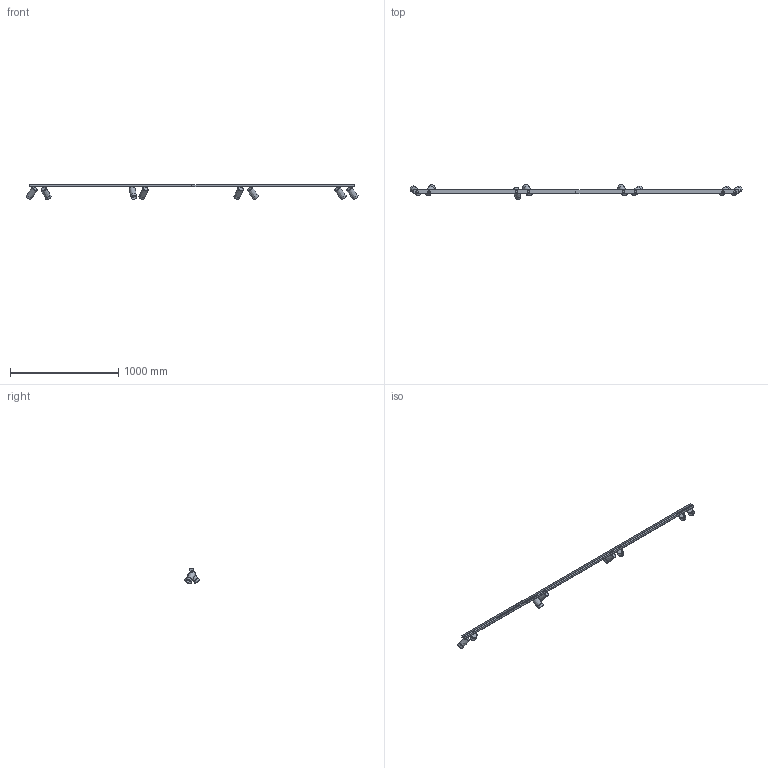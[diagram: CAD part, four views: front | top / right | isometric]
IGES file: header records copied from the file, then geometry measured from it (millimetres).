
Start section: SolidWorks IGES file using NURBS representation for surfaces
Global section: file name: Z:\Modele 3D_WWW\_KOLEKCJE_WWW\MONO\MONO-CORNER\7754\MONO-VIII-2X150-BRASS-7754.IGS; native system: SolidWorks 2021; preprocessor: SolidWorks 2021; author: gabriela.tworek; date: 220119.133250; units: millimetre
Bounding box: 3070.79 x 137.6 x 135.98 mm (x, y, z)
Surface area: 833747.7 mm2 (no closed solid volume)
Topology: 0 solids, 0 shells, 388 faces, 2336 edges, 2296 vertices
Faces by surface type: bspline 388
